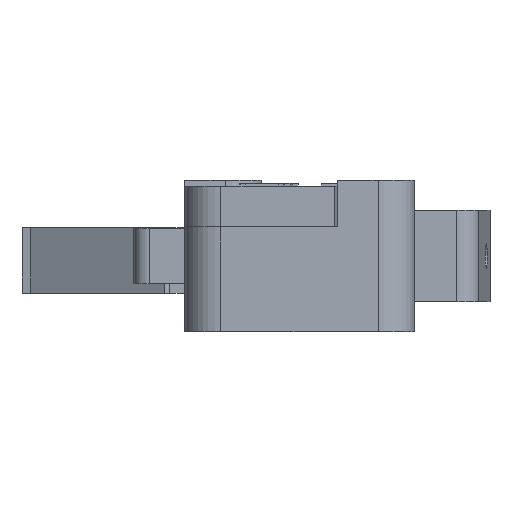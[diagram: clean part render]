
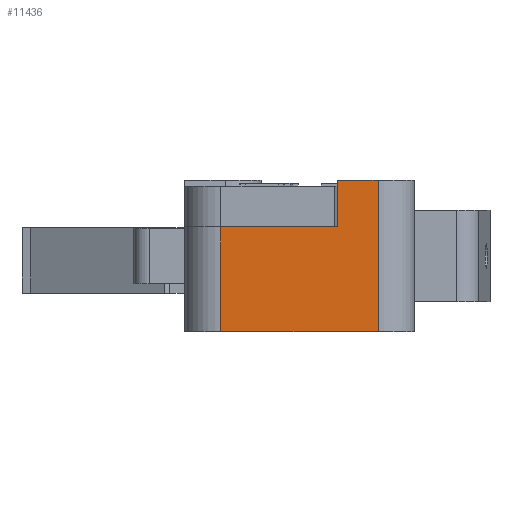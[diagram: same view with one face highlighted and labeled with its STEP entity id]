
A CAD part, left-side view. The second image highlights one B-rep face of the part: STEP entity #11436.
In plain terms, the highlighted planar face has unit normal (-1, 0, 0).
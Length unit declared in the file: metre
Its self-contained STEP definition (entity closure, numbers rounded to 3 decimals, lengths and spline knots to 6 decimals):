
#11096=CARTESIAN_POINT('',(-0.027238,-0.006323,0.022913));
#11097=VERTEX_POINT('',#11096);
#11100=CARTESIAN_POINT('',(-0.027238,-0.006323,0.030113));
#11101=DIRECTION('',(0.,0.,-1.));
#11102=VECTOR('',#11101,1.);
#11103=LINE('',#11100,#11102);
#11104=CARTESIAN_POINT('',(-0.027238,-0.006323,0.030113));
#11105=VERTEX_POINT('',#11104);
#11106=EDGE_CURVE('',#11105,#11097,#11103,.T.);
#11304=CARTESIAN_POINT('',(-0.027238,-0.017123,0.033313));
#11305=VERTEX_POINT('',#11304);
#11339=CARTESIAN_POINT('',(-0.027238,-0.014323,0.033313));
#11340=VERTEX_POINT('',#11339);
#11343=CARTESIAN_POINT('',(-0.027238,-0.014323,0.033313));
#11344=DIRECTION('',(0.,-1.,0.));
#11345=VECTOR('',#11344,1.);
#11346=LINE('',#11343,#11345);
#11347=EDGE_CURVE('',#11340,#11305,#11346,.T.);
#11376=CARTESIAN_POINT('',(-0.027238,-0.017123,0.022913));
#11377=VERTEX_POINT('',#11376);
#11389=CARTESIAN_POINT('',(-0.027238,-0.017123,0.033313));
#11390=DIRECTION('',(0.,0.,-1.));
#11391=VECTOR('',#11390,1.);
#11392=LINE('',#11389,#11391);
#11393=EDGE_CURVE('',#11305,#11377,#11392,.T.);
#11406=CARTESIAN_POINT('',(-0.027238,-0.014323,0.033313));
#11407=DIRECTION('',(1.,0.,0.));
#11408=DIRECTION('',(0.,1.,0.));
#11409=AXIS2_PLACEMENT_3D('',#11406,#11407,#11408);
#11410=PLANE('',#11409);
#11411=CARTESIAN_POINT('',(-0.027238,-0.014323,0.022913));
#11412=DIRECTION('',(0.,-1.,0.));
#11413=VECTOR('',#11412,1.);
#11414=LINE('',#11411,#11413);
#11415=EDGE_CURVE('',#11097,#11377,#11414,.T.);
#11416=ORIENTED_EDGE('',*,*,#11415,.T.);
#11417=ORIENTED_EDGE('',*,*,#11393,.F.);
#11418=ORIENTED_EDGE('',*,*,#11347,.F.);
#11419=CARTESIAN_POINT('',(-0.027238,-0.014323,0.033313));
#11420=DIRECTION('',(0.,0.,-1.));
#11421=VECTOR('',#11420,1.);
#11422=LINE('',#11419,#11421);
#11423=CARTESIAN_POINT('',(-0.027238,-0.014323,0.030113));
#11424=VERTEX_POINT('',#11423);
#11425=EDGE_CURVE('',#11340,#11424,#11422,.T.);
#11426=ORIENTED_EDGE('',*,*,#11425,.T.);
#11427=CARTESIAN_POINT('',(-0.027238,-0.011723,0.030113));
#11428=DIRECTION('',(0.,-1.,0.));
#11429=VECTOR('',#11428,1.);
#11430=LINE('',#11427,#11429);
#11431=EDGE_CURVE('',#11105,#11424,#11430,.T.);
#11432=ORIENTED_EDGE('',*,*,#11431,.F.);
#11433=ORIENTED_EDGE('',*,*,#11106,.T.);
#11434=EDGE_LOOP('',(#11416,#11417,#11418,#11426,#11432,#11433));
#11435=FACE_BOUND('',#11434,.T.);
#11436=ADVANCED_FACE('',(#11435),#11410,.F.);
